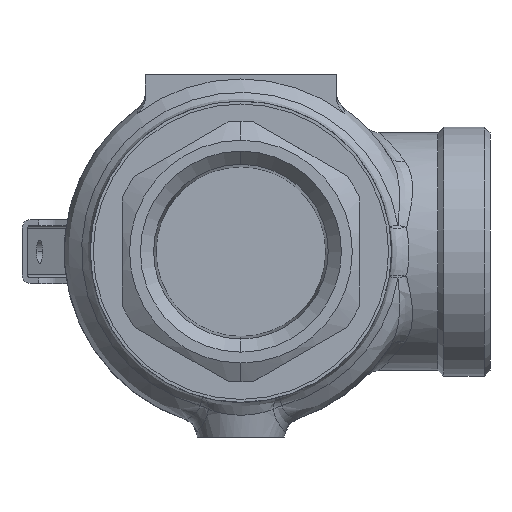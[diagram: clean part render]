
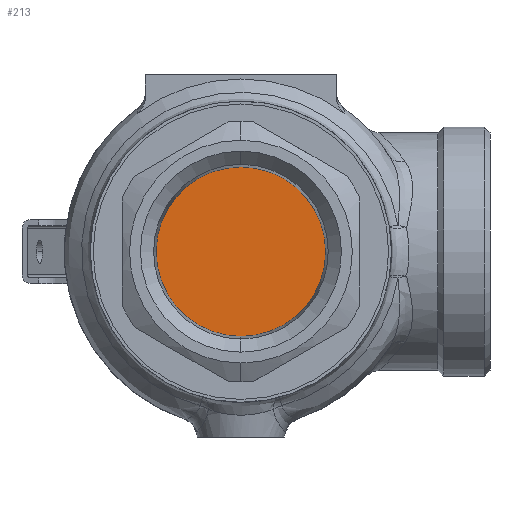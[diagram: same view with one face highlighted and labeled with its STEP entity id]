
A CAD part, front view. The second image highlights one B-rep face of the part: STEP entity #213.
In plain terms, the highlighted planar face has unit normal (0, -1, 0).
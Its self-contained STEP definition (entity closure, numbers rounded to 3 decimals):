
#213=ADVANCED_FACE('',(#1306),#1305,.F.);
#1305=PLANE('',#3297);
#1306=FACE_OUTER_BOUND('',#3298,.T.);
#3294=CARTESIAN_POINT('',(-30.408,-34.5,-33.649));
#3295=DIRECTION('',(0.,1.,0.));
#3296=DIRECTION('',(0.,0.,1.));
#3297=AXIS2_PLACEMENT_3D('',#3294,#3295,#3296);
#3298=EDGE_LOOP('',(#4685,#4686));
#4685=ORIENTED_EDGE('',*,*,#5338,.F.);
#4686=ORIENTED_EDGE('',*,*,#5339,.F.);
#5338=EDGE_CURVE('',#7495,#7496,#7497,.T.);
#5339=EDGE_CURVE('',#7496,#7495,#7503,.T.);
#7495=VERTEX_POINT('',#10031);
#7496=VERTEX_POINT('',#10032);
#7497=CIRCLE('',#10036,14.63);
#7503=CIRCLE('',#10040,14.63);
#10031=CARTESIAN_POINT('',(0.,-34.5,-14.63));
#10032=CARTESIAN_POINT('',(0.,-34.5,14.63));
#10033=CARTESIAN_POINT('',(0.,-34.5,0.));
#10034=DIRECTION('',(0.,1.,0.));
#10035=DIRECTION('',(0.,0.,1.));
#10036=AXIS2_PLACEMENT_3D('',#10033,#10034,#10035);
#10037=CARTESIAN_POINT('',(0.,-34.5,0.));
#10038=DIRECTION('',(0.,1.,0.));
#10039=DIRECTION('',(0.,0.,1.));
#10040=AXIS2_PLACEMENT_3D('',#10037,#10038,#10039);
